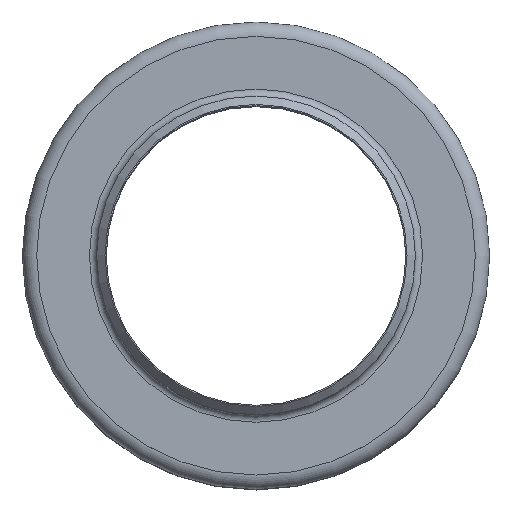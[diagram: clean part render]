
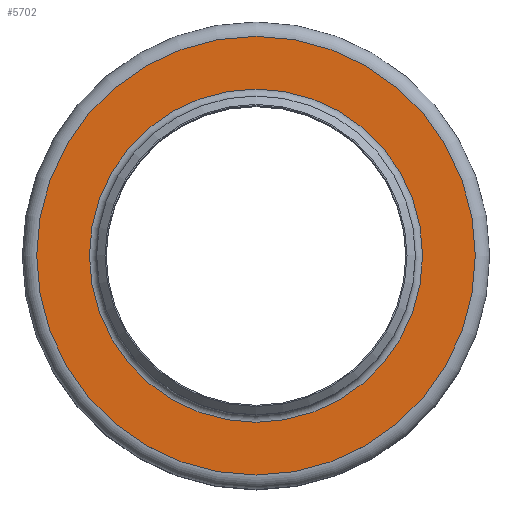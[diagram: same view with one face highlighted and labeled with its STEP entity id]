
A CAD part, top view. The second image highlights one B-rep face of the part: STEP entity #5702.
In plain terms, the highlighted planar face has unit normal (0, 0, 1).
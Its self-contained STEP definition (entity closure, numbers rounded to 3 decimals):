
#194=FACE_BOUND('',#1026,.T.);
#334=PLANE('',#6138);
#683=FACE_OUTER_BOUND('',#1025,.T.);
#1025=EDGE_LOOP('',(#4775));
#1026=EDGE_LOOP('',(#4776));
#1909=CIRCLE('',#6133,69.5);
#1913=CIRCLE('',#6139,91.5);
#2645=VERTEX_POINT('',#12676);
#2648=VERTEX_POINT('',#12687);
#3372=EDGE_CURVE('',#2645,#2645,#1909,.T.);
#3377=EDGE_CURVE('',#2648,#2648,#1913,.T.);
#4775=ORIENTED_EDGE('',*,*,#3377,.F.);
#4776=ORIENTED_EDGE('',*,*,#3372,.F.);
#5702=ADVANCED_FACE('',(#683,#194),#334,.F.);
#6133=AXIS2_PLACEMENT_3D('',#12678,#7326,#7327);
#6138=AXIS2_PLACEMENT_3D('',#12686,#7337,#7338);
#6139=AXIS2_PLACEMENT_3D('',#12688,#7339,#7340);
#7326=DIRECTION('center_axis',(0.,0.,1.));
#7327=DIRECTION('ref_axis',(0.,-1.,0.));
#7337=DIRECTION('center_axis',(0.,0.,-1.));
#7338=DIRECTION('ref_axis',(-1.,0.,0.));
#7339=DIRECTION('center_axis',(0.,0.,-1.));
#7340=DIRECTION('ref_axis',(1.,0.,0.));
#12676=CARTESIAN_POINT('',(69.5,0.,76.));
#12678=CARTESIAN_POINT('Origin',(0.,0.,76.));
#12686=CARTESIAN_POINT('Origin',(0.,66.5,76.));
#12687=CARTESIAN_POINT('',(91.5,0.,76.));
#12688=CARTESIAN_POINT('Origin',(0.,0.,76.));
